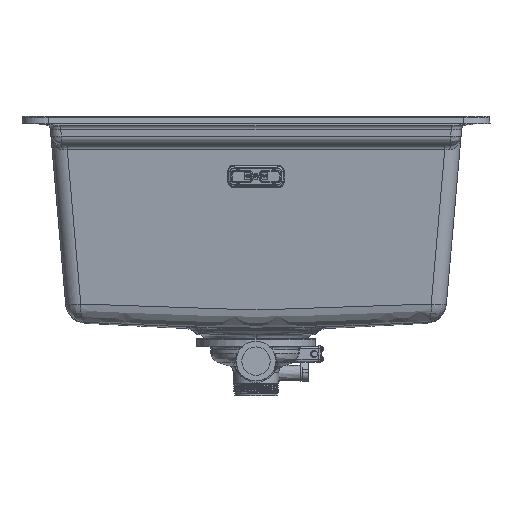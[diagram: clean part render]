
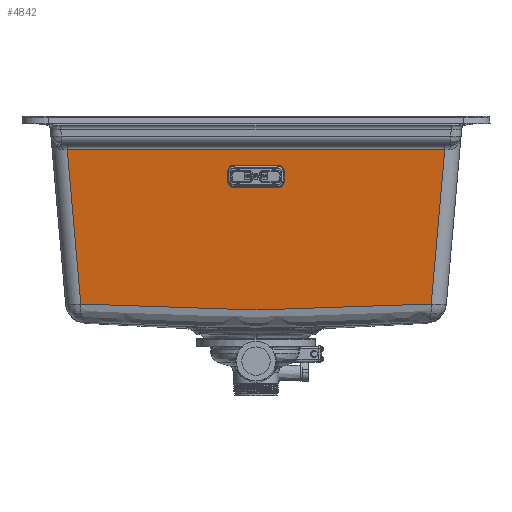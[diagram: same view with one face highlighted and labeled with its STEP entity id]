
A CAD part, front view. The second image highlights one B-rep face of the part: STEP entity #4842.
In plain terms, the highlighted planar face has unit normal (0, -0.996, -0.087).
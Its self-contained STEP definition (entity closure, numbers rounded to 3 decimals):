
#44=(
BOUNDED_CURVE()
B_SPLINE_CURVE(2,(#58487,#58488,#58489),.UNSPECIFIED.,.F.,.F.)
B_SPLINE_CURVE_WITH_KNOTS((3,3),(0.,14.027),.UNSPECIFIED.)
CURVE()
GEOMETRIC_REPRESENTATION_ITEM()
RATIONAL_B_SPLINE_CURVE((1.,0.707,1.))
REPRESENTATION_ITEM('')
);
#45=(
BOUNDED_CURVE()
B_SPLINE_CURVE(2,(#58492,#58493,#58494),.UNSPECIFIED.,.F.,.F.)
B_SPLINE_CURVE_WITH_KNOTS((3,3),(0.,14.027),.UNSPECIFIED.)
CURVE()
GEOMETRIC_REPRESENTATION_ITEM()
RATIONAL_B_SPLINE_CURVE((1.,0.707,1.))
REPRESENTATION_ITEM('')
);
#46=(
BOUNDED_CURVE()
B_SPLINE_CURVE(2,(#58495,#58496,#58497),.UNSPECIFIED.,.F.,.F.)
B_SPLINE_CURVE_WITH_KNOTS((3,3),(0.,14.027),.UNSPECIFIED.)
CURVE()
GEOMETRIC_REPRESENTATION_ITEM()
RATIONAL_B_SPLINE_CURVE((1.,0.707,1.))
REPRESENTATION_ITEM('')
);
#47=(
BOUNDED_CURVE()
B_SPLINE_CURVE(2,(#58500,#58501,#58502),.UNSPECIFIED.,.F.,.F.)
B_SPLINE_CURVE_WITH_KNOTS((3,3),(0.,14.027),.UNSPECIFIED.)
CURVE()
GEOMETRIC_REPRESENTATION_ITEM()
RATIONAL_B_SPLINE_CURVE((1.,0.707,1.))
REPRESENTATION_ITEM('')
);
#3939=FACE_BOUND('',#8880,.T.);
#4842=ADVANCED_FACE('',(#6832,#3939),#33557,.T.);
#6832=FACE_OUTER_BOUND('',#8879,.T.);
#8879=EDGE_LOOP('',(#14432,#14433,#14434,#14435));
#8880=EDGE_LOOP('',(#14436,#14437,#14438,#14439,#14440,#14441,#14442,#14443));
#14432=ORIENTED_EDGE('',*,*,#22755,.F.);
#14433=ORIENTED_EDGE('',*,*,#22714,.T.);
#14434=ORIENTED_EDGE('',*,*,#22749,.F.);
#14435=ORIENTED_EDGE('',*,*,#22836,.F.);
#14436=ORIENTED_EDGE('',*,*,#22616,.T.);
#14437=ORIENTED_EDGE('',*,*,#22837,.T.);
#14438=ORIENTED_EDGE('',*,*,#22838,.T.);
#14439=ORIENTED_EDGE('',*,*,#22839,.T.);
#14440=ORIENTED_EDGE('',*,*,#22622,.T.);
#14441=ORIENTED_EDGE('',*,*,#22840,.T.);
#14442=ORIENTED_EDGE('',*,*,#22841,.T.);
#14443=ORIENTED_EDGE('',*,*,#22842,.T.);
#22616=EDGE_CURVE('',#30880,#30882,#27591,.T.);
#22622=EDGE_CURVE('',#30888,#30874,#27597,.T.);
#22714=EDGE_CURVE('',#30964,#30965,#27656,.T.);
#22749=EDGE_CURVE('',#30941,#30965,#27676,.T.);
#22755=EDGE_CURVE('',#30964,#30938,#27679,.T.);
#22836=EDGE_CURVE('',#30938,#30941,#27723,.T.);
#22837=EDGE_CURVE('',#30882,#30884,#44,.T.);
#22838=EDGE_CURVE('',#30884,#30886,#27724,.T.);
#22839=EDGE_CURVE('',#30886,#30888,#45,.T.);
#22840=EDGE_CURVE('',#30874,#30875,#46,.T.);
#22841=EDGE_CURVE('',#30875,#30878,#27725,.T.);
#22842=EDGE_CURVE('',#30878,#30880,#47,.T.);
#27591=B_SPLINE_CURVE_WITH_KNOTS('',1,(#55381,#55382),.UNSPECIFIED.,.F.,
 .F.,(2,2),(-46.,0.),.UNSPECIFIED.);
#27597=B_SPLINE_CURVE_WITH_KNOTS('',1,(#55393,#55394),.UNSPECIFIED.,.F.,
 .F.,(2,2),(-46.,0.),.UNSPECIFIED.);
#27656=B_SPLINE_CURVE_WITH_KNOTS('',1,(#56633,#56634),.UNSPECIFIED.,.F.,
 .F.,(2,2),(-398.96,0.),.UNSPECIFIED.);
#27676=B_SPLINE_CURVE_WITH_KNOTS('',1,(#57174,#57175),.UNSPECIFIED.,.F.,
 .F.,(2,2),(0.,164.056),.UNSPECIFIED.);
#27679=B_SPLINE_CURVE_WITH_KNOTS('',1,(#57189,#57190),.UNSPECIFIED.,.F.,
 .F.,(2,2),(0.,164.056),.UNSPECIFIED.);
#27723=B_SPLINE_CURVE_WITH_KNOTS('',3,(#58453,#58454,#58455,#58456,#58457,
#58458,#58459,#58460,#58461,#58462,#58463,#58464,#58465,#58466,#58467,#58468,
#58469,#58470,#58471,#58472,#58473,#58474,#58475,#58476,#58477,#58478,#58479,
#58480,#58481,#58482,#58483,#58484,#58485,#58486),.UNSPECIFIED.,.F.,.F.,
(4,3,3,3,3,3,3,3,3,3,3,4),(-370.726,-301.821,-279.175,
-278.05,-232.284,-185.379,-185.367,
-138.48,-92.686,-91.577,-20.036,
0.),.UNSPECIFIED.);
#27724=B_SPLINE_CURVE_WITH_KNOTS('',1,(#58490,#58491),.UNSPECIFIED.,.F.,
 .F.,(2,2),(0.,10.038),.UNSPECIFIED.);
#27725=B_SPLINE_CURVE_WITH_KNOTS('',1,(#58498,#58499),.UNSPECIFIED.,.F.,
 .F.,(2,2),(0.,10.038),.UNSPECIFIED.);
#30874=VERTEX_POINT('',#54964);
#30875=VERTEX_POINT('',#54965);
#30878=VERTEX_POINT('',#54968);
#30880=VERTEX_POINT('',#54970);
#30882=VERTEX_POINT('',#54972);
#30884=VERTEX_POINT('',#54974);
#30886=VERTEX_POINT('',#54976);
#30888=VERTEX_POINT('',#54978);
#30938=VERTEX_POINT('',#55028);
#30941=VERTEX_POINT('',#55031);
#30964=VERTEX_POINT('',#55054);
#30965=VERTEX_POINT('',#55055);
#33557=PLANE('',#35294);
#35294=AXIS2_PLACEMENT_3D('',#52826,#38530,$);
#38530=DIRECTION('',(0.,-0.996,-0.087));
#52826=CARTESIAN_POINT('',(239.496,-300.13,-221.659));
#54964=CARTESIAN_POINT('',(-23.,-312.918,-75.5));
#54965=CARTESIAN_POINT('',(-30.,-313.53,-68.5));
#54968=CARTESIAN_POINT('',(-30.,-314.405,-58.5));
#54970=CARTESIAN_POINT('',(-23.,-315.017,-51.5));
#54972=CARTESIAN_POINT('',(23.,-315.017,-51.5));
#54974=CARTESIAN_POINT('',(30.,-314.405,-58.5));
#54976=CARTESIAN_POINT('',(30.,-313.53,-68.5));
#54978=CARTESIAN_POINT('',(23.,-312.918,-75.5));
#55028=CARTESIAN_POINT('',(185.236,-302.175,-198.291));
#55031=CARTESIAN_POINT('',(-185.236,-302.175,-198.291));
#55054=CARTESIAN_POINT('',(199.48,-316.419,-35.477));
#55055=CARTESIAN_POINT('',(-199.48,-316.419,-35.477));
#55381=CARTESIAN_POINT('',(-23.,-315.017,-51.5));
#55382=CARTESIAN_POINT('',(23.,-315.017,-51.5));
#55393=CARTESIAN_POINT('',(23.,-312.918,-75.5));
#55394=CARTESIAN_POINT('',(-23.,-312.918,-75.5));
#56633=CARTESIAN_POINT('',(199.48,-316.419,-35.477));
#56634=CARTESIAN_POINT('',(-199.48,-316.419,-35.477));
#57174=CARTESIAN_POINT('',(-185.236,-302.175,-198.291));
#57175=CARTESIAN_POINT('',(-199.48,-316.419,-35.477));
#57189=CARTESIAN_POINT('',(199.48,-316.419,-35.477));
#57190=CARTESIAN_POINT('',(185.236,-302.175,-198.291));
#58453=CARTESIAN_POINT('',(185.236,-302.175,-198.291));
#58454=CARTESIAN_POINT('',(162.294,-302.078,-199.392));
#58455=CARTESIAN_POINT('',(139.351,-301.984,-200.471));
#58456=CARTESIAN_POINT('',(116.404,-301.898,-201.451));
#58457=CARTESIAN_POINT('',(108.862,-301.87,-201.773));
#58458=CARTESIAN_POINT('',(101.32,-301.843,-202.084));
#58459=CARTESIAN_POINT('',(93.777,-301.817,-202.382));
#58460=CARTESIAN_POINT('',(93.403,-301.816,-202.397));
#58461=CARTESIAN_POINT('',(93.028,-301.814,-202.411));
#58462=CARTESIAN_POINT('',(92.653,-301.813,-202.426));
#58463=CARTESIAN_POINT('',(77.41,-301.761,-203.025));
#58464=CARTESIAN_POINT('',(62.164,-301.713,-203.564));
#58465=CARTESIAN_POINT('',(46.913,-301.679,-203.961));
#58466=CARTESIAN_POINT('',(31.286,-301.643,-204.368));
#58467=CARTESIAN_POINT('',(15.648,-301.621,-204.616));
#58468=CARTESIAN_POINT('',(0.016,-301.621,-204.616));
#58469=CARTESIAN_POINT('',(0.012,-301.621,-204.616));
#58470=CARTESIAN_POINT('',(0.008,-301.621,-204.616));
#58471=CARTESIAN_POINT('',(0.004,-301.621,-204.616));
#58472=CARTESIAN_POINT('',(-15.625,-301.621,-204.616));
#58473=CARTESIAN_POINT('',(-31.251,-301.643,-204.369));
#58474=CARTESIAN_POINT('',(-46.875,-301.679,-203.962));
#58475=CARTESIAN_POINT('',(-62.134,-301.713,-203.565));
#58476=CARTESIAN_POINT('',(-77.391,-301.76,-203.026));
#58477=CARTESIAN_POINT('',(-92.643,-301.813,-202.426));
#58478=CARTESIAN_POINT('',(-93.013,-301.814,-202.412));
#58479=CARTESIAN_POINT('',(-93.382,-301.815,-202.397));
#58480=CARTESIAN_POINT('',(-93.752,-301.817,-202.383));
#58481=CARTESIAN_POINT('',(-117.58,-301.899,-201.442));
#58482=CARTESIAN_POINT('',(-141.402,-301.993,-200.367));
#58483=CARTESIAN_POINT('',(-165.223,-302.091,-199.244));
#58484=CARTESIAN_POINT('',(-171.894,-302.119,-198.93));
#58485=CARTESIAN_POINT('',(-178.565,-302.147,-198.611));
#58486=CARTESIAN_POINT('',(-185.236,-302.175,-198.291));
#58487=CARTESIAN_POINT('',(23.,-315.017,-51.5));
#58488=CARTESIAN_POINT('',(30.,-315.017,-51.5));
#58489=CARTESIAN_POINT('',(30.,-314.405,-58.5));
#58490=CARTESIAN_POINT('',(30.,-314.405,-58.5));
#58491=CARTESIAN_POINT('',(30.,-313.53,-68.5));
#58492=CARTESIAN_POINT('',(30.,-313.53,-68.5));
#58493=CARTESIAN_POINT('',(30.,-312.918,-75.5));
#58494=CARTESIAN_POINT('',(23.,-312.918,-75.5));
#58495=CARTESIAN_POINT('',(-23.,-312.918,-75.5));
#58496=CARTESIAN_POINT('',(-30.,-312.918,-75.5));
#58497=CARTESIAN_POINT('',(-30.,-313.53,-68.5));
#58498=CARTESIAN_POINT('',(-30.,-313.53,-68.5));
#58499=CARTESIAN_POINT('',(-30.,-314.405,-58.5));
#58500=CARTESIAN_POINT('',(-30.,-314.405,-58.5));
#58501=CARTESIAN_POINT('',(-30.,-315.017,-51.5));
#58502=CARTESIAN_POINT('',(-23.,-315.017,-51.5));
